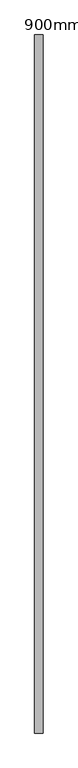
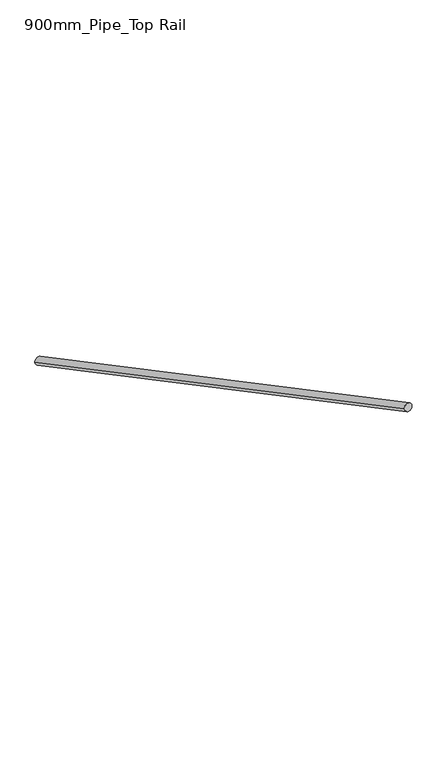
"""IFC4 building model written with IfcOpenShell, lengths in millimetres: railing geometry, 900mm_Pipe_Top Rail."""

from ifc_helpers import new_model, si_unit, frame, origin, place, context, project, spatial, ellipse_curve, source, transform, mapped, element, save
from ifc_brep_helpers import plane_surface, cylinder_surface, advanced_brep


def railing_900mm_pipe_top_rail_a4c81e61(model_context):
    return source(origin(), model_context, "Body", "AdvancedBrep", [
        advanced_brep(
        [(-12235.3216429, 12414.8960687, 6639.9405164), (-12195.3216429, 12414.8960687, 6639.9405164), (-12235.3216429, 9114.8960687, 8387.3690878), (-12195.3216429, 9114.8960687, 8387.3690878)],
        [
            (0, 1, ellipse_curve(frame((-12215.3216429, 12414.8960687, 6639.9405164), z_axis=(0.0, 1.0, 0.0), x_axis=(0.0, 0.0, -1.0)), 22.6309122, 20.0)),
            (1, 0, ellipse_curve(frame((-12215.3216429, 12414.8960687, 6639.9405164), z_axis=(0.0, 1.0, 0.0), x_axis=(0.0, 0.0, -1.0)), 22.6309122, 20.0)),
            (2, 3, ellipse_curve(frame((-12215.3216429, 9114.8960687, 8387.3690878), z_axis=(0.0, -1.0, 0.0), x_axis=(0.0, 0.0, -1.0)), 22.6309122, 20.0)),
            (3, 2, ellipse_curve(frame((-12215.3216429, 9114.8960687, 8387.3690878), z_axis=(0.0, -1.0, 0.0), x_axis=(0.0, 0.0, -1.0)), 22.6309122, 20.0)),
            (0, 2),
            (3, 1),
        ],
        [
            plane_surface(frame((-12215.3216429, 12414.8960687, 6662.5714286), z_axis=(0.0, 1.0, 0.0), x_axis=(0.0, 0.0, -1.0))),
            plane_surface(frame((-12215.3216429, 9114.8960687, 8410.0), z_axis=(0.0, -1.0, 0.0), x_axis=(0.0, 0.0, -1.0))),
            cylinder_surface(frame((-12215.3216429, 12405.5367675, 6644.8964892), z_axis=(0.0, 0.8837469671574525, -0.46796506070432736), x_axis=(1.0, 0.0, 0.0)), 20.0),
        ],
        [
            (0, [[1, 2]]),
            (1, [[3, 4]]),
            (2, [[-1, 5, -4, 6]]),
            (2, [[-2, -6, -3, -5]]),
        ],
    ),
    ])


if __name__ == "__main__":
    model = new_model("IFC4")
    model_context = context("Model", 3, world=origin())
    ifc_project = project(units=[si_unit("LENGTHUNIT", "METRE", prefix="MILLI")], contexts=[model_context])
    site = spatial("IfcSite", under=ifc_project)
    building = spatial("IfcBuilding", under=site)
    placement = place(None, origin())
    railing_900mm_pipe_top_rail_shape = railing_900mm_pipe_top_rail_a4c81e61(model_context)
    element("IfcRailing", 1, ObjectType="900mm_Pipe_Top Rail", at=placement, inside=building, context=model_context, shape_type="MappedRepresentation", body=[
        mapped(railing_900mm_pipe_top_rail_shape, transform((0.0, 0.0, 0.0), x_axis=(1.0, 0.0, 0.0), y_axis=(0.0, 1.0, 0.0), z_axis=(0.0, 0.0, 1.0))),
    ])
    save(model, "model.ifc")
